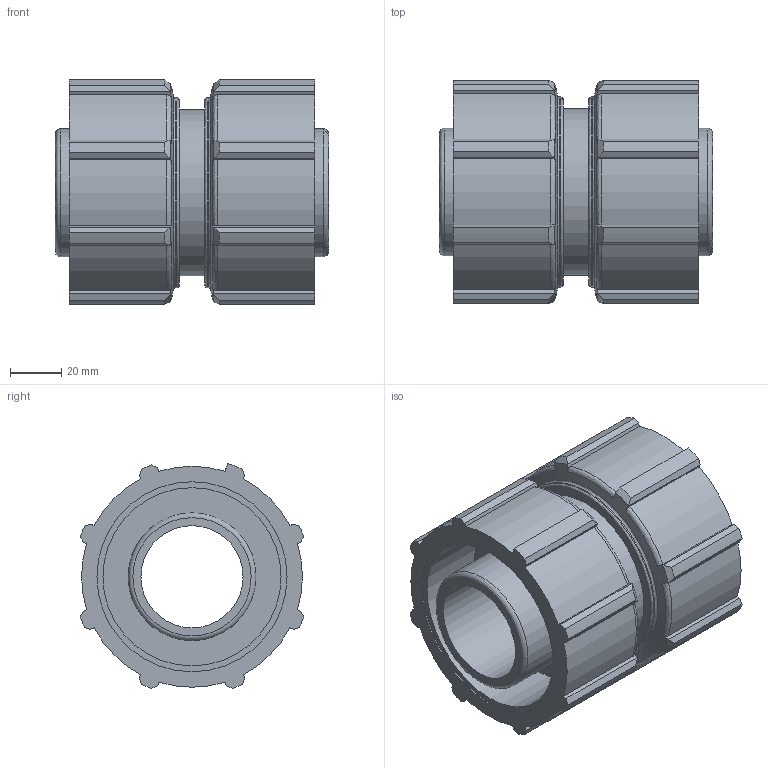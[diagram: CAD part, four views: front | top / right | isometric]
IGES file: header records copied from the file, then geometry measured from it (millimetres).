
Global section: file name: 079400050__0794060500A.ipt; native system: Autodesk Inventor 2015; preprocessor: unknown; author: KIM; date: 20180731.142054; units: millimetre
Bounding box: 107 x 87.51 x 88.1 mm (x, y, z)
Volume: 332000.3 mm3; surface area: 77322.9 mm2
Topology: 1 solids, 1 shells, 154 faces, 446 edges, 302 vertices
Faces by surface type: plane 72, cylinder 37, revolution 27, cone 18
Full cylindrical faces by diameter (mm): 50 x2, 65.1 x1, 74.4 x2
